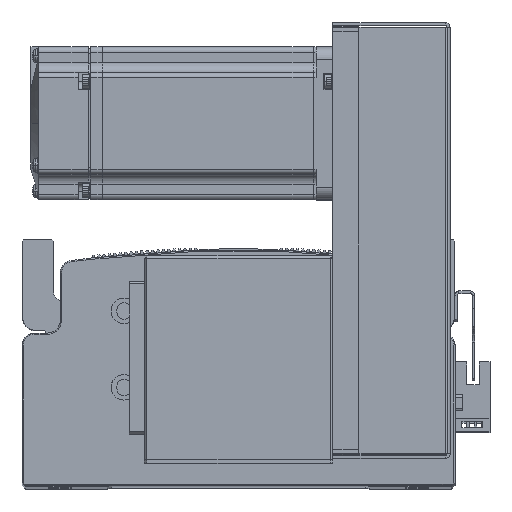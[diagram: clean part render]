
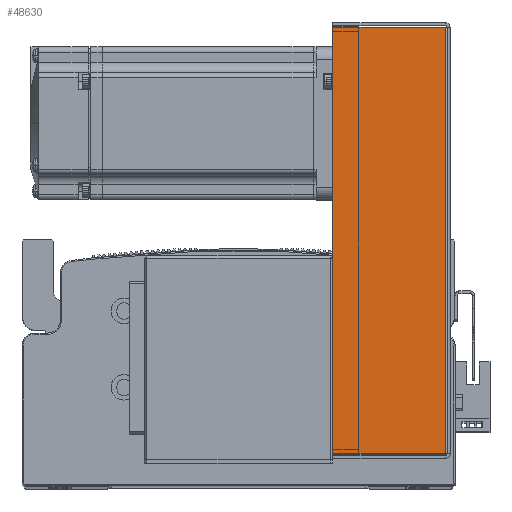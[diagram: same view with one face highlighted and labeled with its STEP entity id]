
A CAD part, top view. The second image highlights one B-rep face of the part: STEP entity #48630.
In plain terms, the highlighted planar face has unit normal (0, 0, 1).
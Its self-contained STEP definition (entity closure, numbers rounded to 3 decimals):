
#8240 = EDGE_CURVE ( 'NONE', #63360, #63367, #24168, .T. ) ;
#8260 = EDGE_CURVE ( 'NONE', #63344, #63367, #24255, .T. ) ;
#8277 = EDGE_CURVE ( 'NONE', #63350, #63360, #24247, .T. ) ;
#8291 = EDGE_CURVE ( 'NONE', #63350, #63344, #24237, .T. ) ;
#14458 = ORIENTED_EDGE ( 'NONE', *, *, #8277, .T. ) ;
#14517 = ORIENTED_EDGE ( 'NONE', *, *, #8291, .F. ) ;
#14526 = ORIENTED_EDGE ( 'NONE', *, *, #8260, .F. ) ;
#14527 = ORIENTED_EDGE ( 'NONE', *, *, #8240, .T. ) ;
#24157 = VECTOR ( 'NONE', #26891, 1000. ) ;
#24168 = LINE ( 'NONE', #26890, #24157 ) ;
#24225 = VECTOR ( 'NONE', #27007, 1000. ) ;
#24237 = LINE ( 'NONE', #27037, #24238 ) ;
#24238 = VECTOR ( 'NONE', #27011, 1000. ) ;
#24247 = LINE ( 'NONE', #26984, #24225 ) ;
#24255 = LINE ( 'NONE', #26918, #24263 ) ;
#24263 = VECTOR ( 'NONE', #26933, 1000. ) ;
#26890 = CARTESIAN_POINT ( 'NONE',  ( -84.5, 45., 40.5 ) ) ;
#26891 = DIRECTION ( 'NONE',  ( -1., 0., 0. ) ) ;
#26918 = CARTESIAN_POINT ( 'NONE',  ( -83.793, 0., 40.5 ) ) ;
#26933 = DIRECTION ( 'NONE',  ( 0., 1., 0. ) ) ;
#26984 = CARTESIAN_POINT ( 'NONE',  ( 83.793, 0., 40.5 ) ) ;
#27007 = DIRECTION ( 'NONE',  ( 0., 1., 0. ) ) ;
#27011 = DIRECTION ( 'NONE',  ( -1., 0., 0. ) ) ;
#27037 = CARTESIAN_POINT ( 'NONE',  ( 0., 0.737, 40.5 ) ) ;
#48630 = ADVANCED_FACE ( 'NONE', ( #67688 ), #66657, .F. ) ;
#58649 = AXIS2_PLACEMENT_3D ( 'NONE', #66600, #66641, #66662 ) ;
#63344 = VERTEX_POINT ( 'NONE', #75789 ) ;
#63350 = VERTEX_POINT ( 'NONE', #75722 ) ;
#63360 = VERTEX_POINT ( 'NONE', #75754 ) ;
#63367 = VERTEX_POINT ( 'NONE', #75770 ) ;
#66600 = CARTESIAN_POINT ( 'NONE',  ( 0., 0., 40.5 ) ) ;
#66641 = DIRECTION ( 'NONE',  ( 0., 0., -1. ) ) ;
#66657 = PLANE ( 'NONE',  #58649 ) ;
#66662 = DIRECTION ( 'NONE',  ( -1., 0., 0. ) ) ;
#67688 = FACE_OUTER_BOUND ( 'NONE', #71574, .T. ) ;
#71574 = EDGE_LOOP ( 'NONE', ( #14517, #14458, #14527, #14526 ) ) ;
#75722 = CARTESIAN_POINT ( 'NONE',  ( 83.793, 0.737, 40.5 ) ) ;
#75754 = CARTESIAN_POINT ( 'NONE',  ( 83.793, 45., 40.5 ) ) ;
#75770 = CARTESIAN_POINT ( 'NONE',  ( -83.793, 45., 40.5 ) ) ;
#75789 = CARTESIAN_POINT ( 'NONE',  ( -83.793, 0.737, 40.5 ) ) ;
